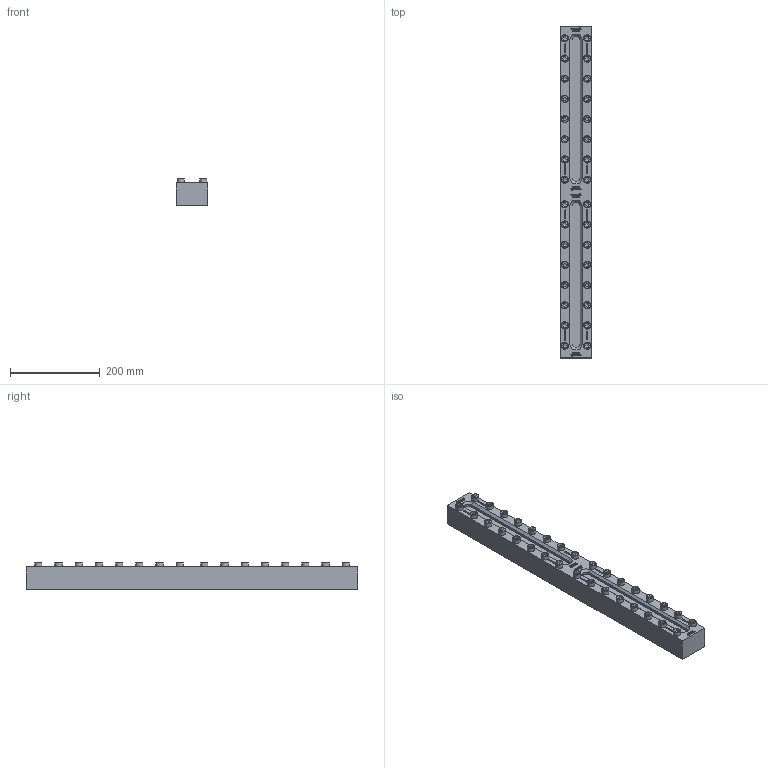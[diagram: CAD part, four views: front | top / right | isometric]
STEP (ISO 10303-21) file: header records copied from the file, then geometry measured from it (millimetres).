
FILE_DESCRIPTION(/* description */ (''),/* implementation_level */ '2;1');
FILE_NAME(/* name */ 'W:\Konstruktion_ACI\330\_Zeichnungen\STEP\ACI-330-740-16.stp',/* time_stamp */ '2022-03-01T17:24:50+01:00',/* author */ ('koslowksi'),/* organization */ (''),/* preprocessor_version */ 'ST-DEVELOPER v16.1',/* originating_system */ 'Autodesk Inventor 2016',/* authorisation */ '');
FILE_SCHEMA (('AUTOMOTIVE_DESIGN { 1 0 10303 214 3 1 1 }'));
Products named in the file (1): ACI-330-740-16.stp
Bounding box: 70 x 740 x 60.9 mm (x, y, z)
Volume: 2377789.8 mm3; surface area: 237437.7 mm2
Topology: 1 solids, 1 shells, 2566 faces, 6944 edges, 4616 vertices
Faces by surface type: plane 1822, bspline 636, cylinder 40, cone 36, torus 32
Full cylindrical faces by diameter (mm): 16 x32
Entity records: 84132 total; most frequent: CARTESIAN_POINT 22555, ORIENTED_EDGE 13568, DIRECTION 9298, EDGE_CURVE 6784, LINE 5204, VECTOR 5204, VERTEX_POINT 4552, EDGE_LOOP 2898
